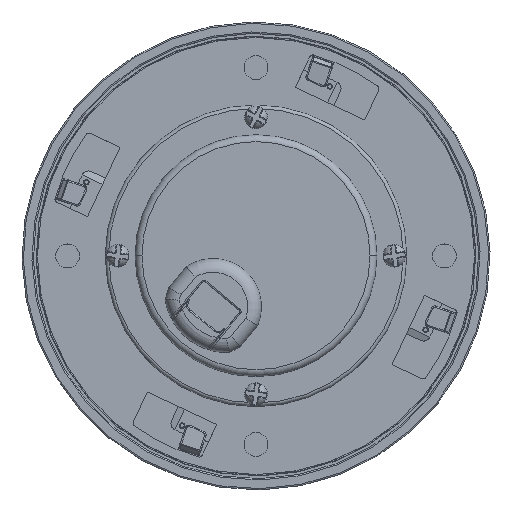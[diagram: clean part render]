
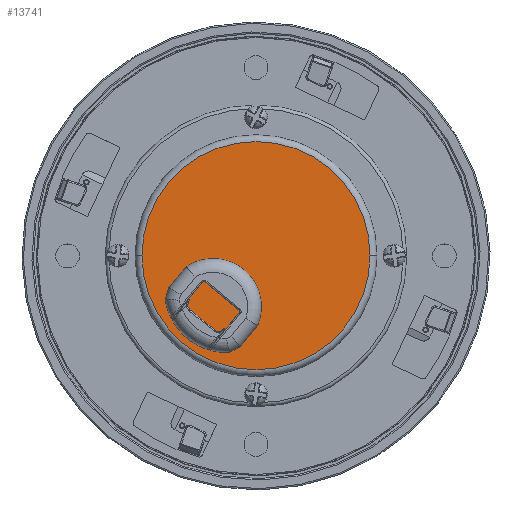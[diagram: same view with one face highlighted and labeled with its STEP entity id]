
A CAD part, top view. The second image highlights one B-rep face of the part: STEP entity #13741.
In plain terms, the highlighted planar face has unit normal (0, 0, 1).
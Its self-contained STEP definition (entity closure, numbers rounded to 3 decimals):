
#1386 = AXIS2_PLACEMENT_3D ( 'NONE', #2788, #2818, #2819 ) ;
#2310 = FACE_OUTER_BOUND ( 'NONE', #15161, .T. ) ;
#2788 = CARTESIAN_POINT ( 'NONE',  ( -5.134, 6.627, 26.571 ) ) ;
#2806 = PLANE ( 'NONE',  #1386 ) ;
#2818 = DIRECTION ( 'NONE',  ( 0., 0., 1. ) ) ;
#2819 = DIRECTION ( 'NONE',  ( 1., 0., 0. ) ) ;
#6213 = CARTESIAN_POINT ( 'NONE',  ( -21.784, 6.627, 26.571 ) ) ;
#6215 = CARTESIAN_POINT ( 'NONE',  ( 11.516, 6.627, 26.571 ) ) ;
#7230 = CIRCLE ( 'NONE', #12432, 16.65 ) ;
#7956 = VERTEX_POINT ( 'NONE', #6213 ) ;
#7957 = VERTEX_POINT ( 'NONE', #6215 ) ;
#9755 = ORIENTED_EDGE ( 'NONE', *, *, #20223, .T. ) ;
#9756 = ORIENTED_EDGE ( 'NONE', *, *, #10404, .T. ) ;
#10404 = EDGE_CURVE ( 'NONE', #7956, #7957, #7230, .T. ) ;
#12432 = AXIS2_PLACEMENT_3D ( 'NONE', #13186, #13187, #13188 ) ;
#13186 = CARTESIAN_POINT ( 'NONE',  ( -5.134, 6.627, 26.571 ) ) ;
#13187 = DIRECTION ( 'NONE',  ( 0., 0., 1. ) ) ;
#13188 = DIRECTION ( 'NONE',  ( 1., 0., 0. ) ) ;
#13741 = ADVANCED_FACE ( 'NONE', ( #2310 ), #2806, .T. ) ;
#15161 = EDGE_LOOP ( 'NONE', ( #9755, #9756 ) ) ;
#20223 = EDGE_CURVE ( 'NONE', #7957, #7956, #28523, .T. ) ;
#24937 = AXIS2_PLACEMENT_3D ( 'NONE', #27576, #27584, #27585 ) ;
#27576 = CARTESIAN_POINT ( 'NONE',  ( -5.134, 6.627, 26.571 ) ) ;
#27584 = DIRECTION ( 'NONE',  ( 0., 0., 1. ) ) ;
#27585 = DIRECTION ( 'NONE',  ( 1., 0., 0. ) ) ;
#28523 = CIRCLE ( 'NONE', #24937, 16.65 ) ;
